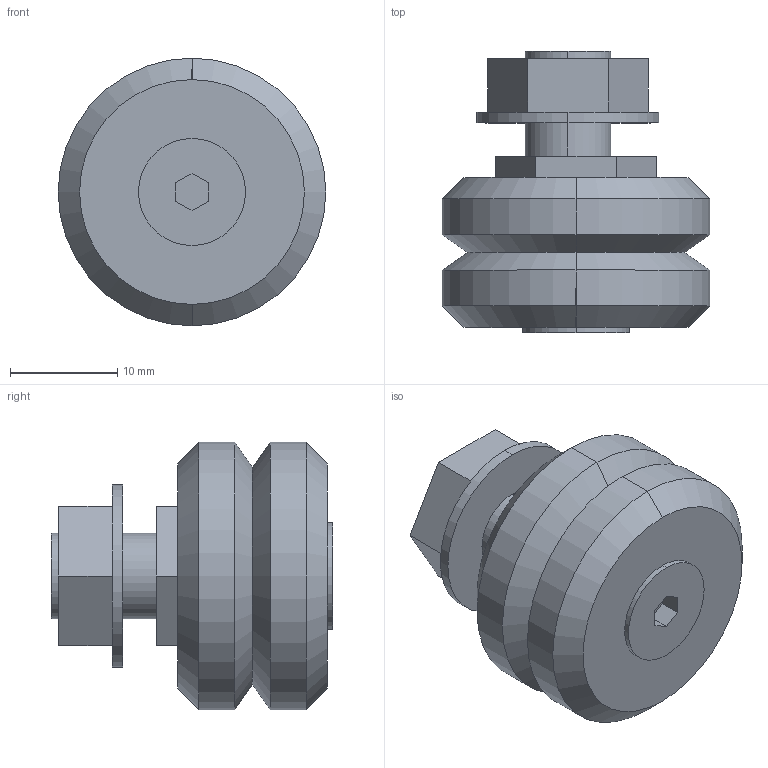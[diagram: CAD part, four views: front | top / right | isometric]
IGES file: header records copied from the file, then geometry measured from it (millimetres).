
Start section: 3D InterOp IGES (v. 2019 1.0.2), Spatial Corp. Copyright (c) 1999-2017.
Global section: file name: SS SJ25 E.igs; native system: Spatial Corp.; preprocessor: 3D InterOp GENERIC/IGES 3.0; author: Noname; organization: Noname; date: 20220628.114802; units: millimetre
Bounding box: 25 x 26.3 x 25 mm (x, y, z)
Surface area: 2922.6 mm2 (no closed solid volume)
Topology: 0 solids, 0 shells, 54 faces, 244 edges, 244 vertices
Faces by surface type: extrusion 34, revolution 20
